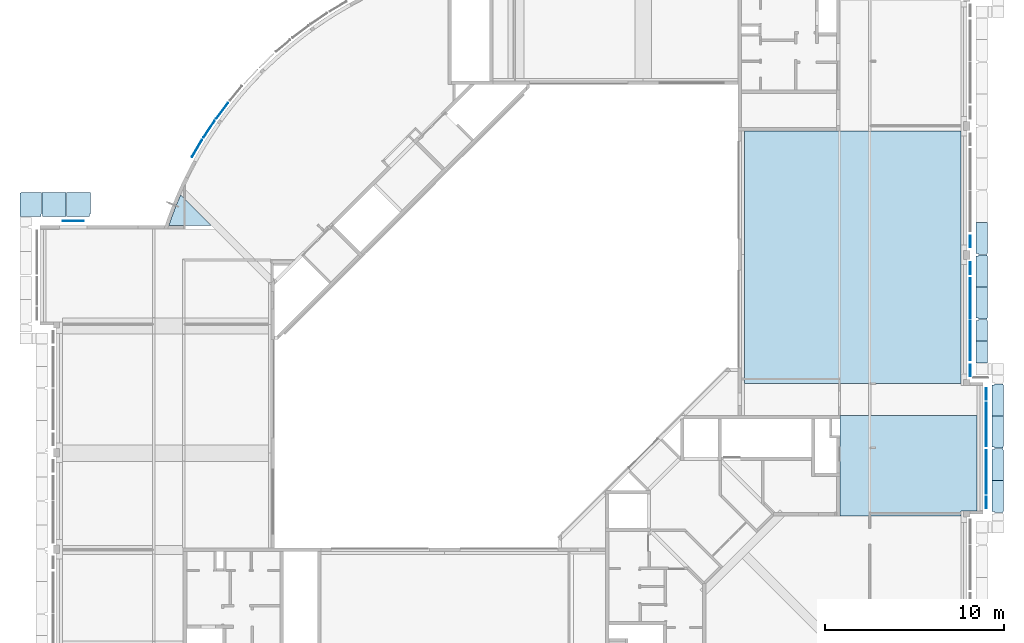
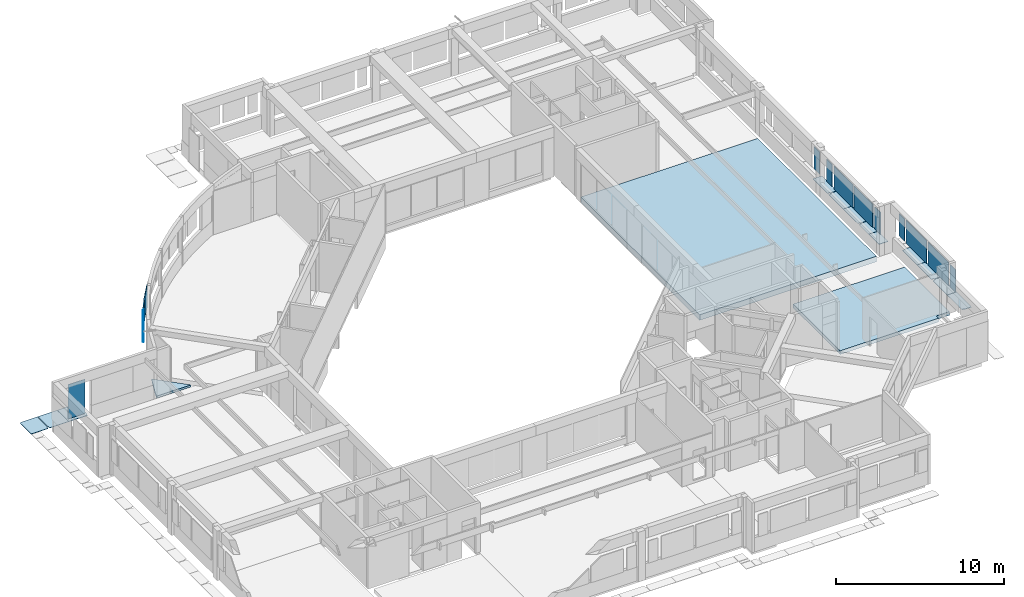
# One storey, part 7 of 26: 15 slabs, 13 plates.
"""IFC4X3_ADD2 building model written with IfcOpenShell, lengths in millimetres."""

from ifc_helpers import new_model, si_unit, point, direction, frame, frame_2d, origin_with_axes, origin_2d_with_axis, place, context, subcontext, project, spatial, polyline, circle_curve, trimmed, segment, composite_curve, rectangle, outline, extrude, source, transform, mapped, material, type_object, element, save


model = new_model("IFC4X3_ADD2")

# Units and contexts
model_context = context("Model", 3, precision=1e-05, world=origin_with_axes(), true_north=direction((0.0, 1.0)))
body_context = subcontext(model_context, "Body", "Model", "MODEL_VIEW")
ifc_project = project(units=[si_unit("LENGTHUNIT", "METRE", prefix="MILLI"), si_unit("AREAUNIT", "SQUARE_METRE"), si_unit("VOLUMEUNIT", "CUBIC_METRE"), si_unit("PLANEANGLEUNIT", "RADIAN"), si_unit("TIMEUNIT", "SECOND"), si_unit("MASSUNIT", "GRAM")], contexts=[model_context])

# Site, building, storey
site_placement = place(None, origin_with_axes())
site = spatial("IfcSite", under=ifc_project, at=site_placement, Name="Site", CompositionType="ELEMENT")
building_placement = place(site_placement, origin_with_axes())
building = spatial("IfcBuilding", under=site, at=building_placement, Name="IFC Building Story")
storey_placement = place(building_placement, frame((0.0, 0.0, 7200.0), z_axis=(0.0, 0.0, 1.0), x_axis=(1.0, 0.0, 0.0)))
storey = spatial("IfcBuildingStorey", under=building, at=storey_placement, Name="020", Elevation=7200.0)

# Slab
ifc_material_1 = material(Name="BB_Beton_Bestaand")
slab_type_1 = type_object("IfcSlabType", Name="BB_Beton_Bestaand 400", PredefinedType="FLOOR", material=ifc_material_1)
slab_1_placement = place(storey_placement, frame((-12355.00406588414, 36000.00000000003, -600.0), z_axis=(0.0, 0.0, 1.0), x_axis=(0.0, -1.0, 0.0)))
element("IfcSlab", 1, at=slab_1_placement, inside=storey, type_object=slab_type_1, Name="Floor:BB_XX_Vloer welfsels, 400 mm", ObjectType="Floor:BB_XX_Vloer welfsels, 400 mm", PredefinedType="FLOOR", context=body_context, shape_type="SweptSolid", body=[
    extrude(rectangle(XDim=14100.00000000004, YDim=12110.0040658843, at=frame_2d((0.0, 0.0), x_axis=(-1.0, 0.0))), frame((7050.000000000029, 6055.002032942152, 0.0), z_axis=(0.0, 0.0, 1.0), x_axis=(1.0, 0.0, 0.0)), (0.0, 0.0, 1.0), 400.0),
])

# Plates
ifc_material_2 = material(Name="BB_Metaal_Aluminium_Buitenschrijnwerk")
shared_shape_1 = source(origin_with_axes(), body_context, "Body", "SweptSolid", [
    extrude(rectangle(XDim=2473.0, YDim=1164.000000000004, at=frame_2d((0.0, 0.0), x_axis=(0.0, 1.0))), frame((0.0, 0.0, -44.0), z_axis=(0.0, 0.0, 1.0), x_axis=(1.0, 0.0, 0.0)), (0.0, 0.0, 1.0), 44.0),
])
plate_1_placement = place(storey_placement, frame((-49845.0, 30997.5000000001, 1323.49999999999), z_axis=(0.0, 1.0, 0.0), x_axis=(-1.0, 0.0, 0.0)))
element("IfcPlate", 2, at=plate_1_placement, inside=storey, material=ifc_material_2, Name="BB_07.06_Buitenbeglazing, rechthoekig_GMO:07.04.63#01_Vulpaneel, 44 mm", ObjectType="BB_07.06_Buitenbeglazing, rechthoekig_GMO:07.04.63#01_Vulpaneel, 44 mm", PredefinedType="USERDEFINED", context=body_context, shape_type="MappedRepresentation", body=[
    mapped(shared_shape_1, transform((0.0, 0.0, 0.0))),
])
ifc_material_3 = material(Name="BB_Glas")
shared_shape_2 = source(origin_with_axes(), body_context, "Body", "SweptSolid", [
    extrude(rectangle(XDim=1602.000000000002, YDim=652.0000000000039, at=frame_2d((0.0, 0.0), x_axis=(0.0, 1.0))), frame((0.0, 0.0, -44.0), z_axis=(0.0, 0.0, 1.0), x_axis=(1.0, 0.0, 0.0)), (0.0, 0.0, 1.0), 44.0),
])
for number, where, z_axis, x_axis in (
    (3, (287.500000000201, 28336.0, 1765.0), (1.0, 0.0, 0.0), (0.0, -1.0, 0.0)),
    (4, (287.500000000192, 22624.0, 1765.0), (1.0, 0.0, 0.0), (0.0, -1.0, 0.0)),
    (5, (1187.50000000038, 21316.0, 1765.0), (1.0, 0.0, 0.0), (0.0, -1.0, 0.0)),
    (6, (1187.50000000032, 15244.0, 1765.0), (1.0, 0.0, 0.0), (0.0, -1.0, 0.0)),
    (7, (287.500000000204, 29824.0, 1765.0), (1.0, 0.0, 0.0), (0.0, -1.0, 0.0)),
):
    element("IfcPlate", number, at=place(storey_placement, frame(where, z_axis=z_axis, x_axis=x_axis)), inside=storey, material=ifc_material_3, Name="BB_07.06_Buitenbeglazing, rechthoekig_GMO:07.06.72#01_Drievoudige beglazing, 44 mm, A/A*/A", ObjectType="BB_07.06_Buitenbeglazing, rechthoekig_GMO:07.06.72#01_Drievoudige beglazing, 44 mm, A/A*/A", PredefinedType="USERDEFINED", context=body_context, shape_type="MappedRepresentation", body=[
        mapped(shared_shape_2, transform((0.0, 0.0, 0.0))),
    ])
shared_shape_3 = source(origin_with_axes(), body_context, "Body", "SweptSolid", [
    extrude(rectangle(XDim=2432.0, YDim=1680.000000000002, at=origin_2d_with_axis()), frame((0.0, 0.0, -44.0), z_axis=(0.0, 0.0, 1.0), x_axis=(1.0, 0.0, 0.0)), (0.0, 0.0, 1.0), 44.0),
])
for number, where, z_axis, x_axis in (
    (8, (1187.50000000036, 19596.0, 1765.0), (1.0, 0.0, 0.0), (0.0, -1.0, 0.0)),
    (9, (1187.50000000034, 16964.0, 1765.0), (1.0, 0.0, 0.0), (0.0, -1.0, 0.0)),
):
    element("IfcPlate", number, at=place(storey_placement, frame(where, z_axis=z_axis, x_axis=x_axis)), inside=storey, material=ifc_material_3, Name="BB_07.06_Buitenbeglazing, rechthoekig_GMO:07.06.72#01_Drievoudige beglazing, 44 mm, A/A*/A", ObjectType="BB_07.06_Buitenbeglazing, rechthoekig_GMO:07.06.72#01_Drievoudige beglazing, 44 mm, A/A*/A", PredefinedType="USERDEFINED", context=body_context, shape_type="MappedRepresentation", body=[
        mapped(shared_shape_3, transform((0.0, 0.0, 0.0))),
    ])
shared_shape_4 = source(origin_with_axes(), body_context, "Body", "SweptSolid", [
    extrude(rectangle(XDim=2222.0, YDim=1680.000000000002, at=origin_2d_with_axis()), frame((0.0, 0.0, -44.0), z_axis=(0.0, 0.0, 1.0), x_axis=(1.0, 0.0, 0.0)), (0.0, 0.0, 1.0), 44.0),
])
for number, where, z_axis, x_axis in (
    (10, (287.500000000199, 26661.0, 1765.0), (1.0, 0.0, 0.0), (0.0, -1.0, 0.0)),
    (11, (287.500000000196, 24299.0, 1765.0), (1.0, 0.0, 0.0), (0.0, -1.0, 0.0)),
):
    element("IfcPlate", number, at=place(storey_placement, frame(where, z_axis=z_axis, x_axis=x_axis)), inside=storey, material=ifc_material_3, Name="BB_07.06_Buitenbeglazing, rechthoekig_GMO:07.06.72#01_Drievoudige beglazing, 44 mm, A/A*/A", ObjectType="BB_07.06_Buitenbeglazing, rechthoekig_GMO:07.06.72#01_Drievoudige beglazing, 44 mm, A/A*/A", PredefinedType="USERDEFINED", context=body_context, shape_type="MappedRepresentation", body=[
        mapped(shared_shape_4, transform((0.0, 0.0, 0.0))),
    ])
shared_shape_5 = source(origin_with_axes(), body_context, "Body", "SweptSolid", [
    extrude(rectangle(XDim=1680.000000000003, YDim=1108.000000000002, at=frame_2d((0.0, 0.0), x_axis=(0.0, 1.0))), frame((0.0, 0.0, -44.0), z_axis=(0.0, 0.0, 1.0), x_axis=(1.0, 0.0, 0.0)), (0.0, 0.0, 1.0), 44.0),
])
for number, where, z_axis, x_axis in (
    (12, (-41553.14279598, 37142.7757453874, 1765.0), (-0.8007150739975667, 0.5990453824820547, 0.0), (0.5990453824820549, 0.8007150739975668, 0.0)),
    (13, (-42275.6815539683, 36119.0900625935, 1765.0), (-0.83263998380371, 0.553814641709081, 0.0), (0.553814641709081, 0.83263998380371, 0.0)),
):
    element("IfcPlate", number, at=place(storey_placement, frame(where, z_axis=z_axis, x_axis=x_axis)), inside=storey, material=ifc_material_3, Name="BB_07.06_Buitenbeglazing, rechthoekig_GMO:07.06.72#01_Drievoudige beglazing, 44 mm, A/A*/A", ObjectType="BB_07.06_Buitenbeglazing, rechthoekig_GMO:07.06.72#01_Drievoudige beglazing, 44 mm, A/A*/A", PredefinedType="USERDEFINED", context=body_context, shape_type="MappedRepresentation", body=[
        mapped(shared_shape_5, transform((0.0, 0.0, 0.0))),
    ])
shared_shape_6 = source(origin_with_axes(), body_context, "Body", "SweptSolid", [
    extrude(rectangle(XDim=1602.000000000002, YDim=1096.000000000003, at=frame_2d((0.0, 0.0), x_axis=(0.0, 1.0))), frame((0.0, 0.0, -44.0), z_axis=(0.0, 0.0, 1.0), x_axis=(1.0, 0.0, 0.0)), (0.0, 0.0, 1.0), 44.0),
])
plate_2_placement = place(storey_placement, frame((-42955.5616505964, 35029.4203907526, 1765.0), z_axis=(-0.8626056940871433, 0.5058768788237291, 0.0), x_axis=(-0.5058768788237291, -0.8626056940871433, 0.0)))
element("IfcPlate", 14, at=plate_2_placement, inside=storey, material=ifc_material_3, Name="BB_07.06_Buitenbeglazing, rechthoekig_GMO:07.06.72#01_Drievoudige beglazing, 44 mm, A/A*/A", ObjectType="BB_07.06_Buitenbeglazing, rechthoekig_GMO:07.06.72#01_Drievoudige beglazing, 44 mm, A/A*/A", PredefinedType="USERDEFINED", context=body_context, shape_type="MappedRepresentation", body=[
    mapped(shared_shape_6, transform((0.0, 0.0, 0.0))),
])

# Slabs
slab_type_2 = type_object("IfcSlabType", Name="BB_Beton_Bestaand 260", PredefinedType="FLOOR", material=ifc_material_1)
slab_2_placement = place(storey_placement, frame((-6999.999999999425, 14499.99999999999, -460.0), z_axis=(0.0, 0.0, 1.0), x_axis=(1.0, 0.0, 0.0)))
element("IfcSlab", 15, at=slab_2_placement, inside=storey, type_object=slab_type_2, Name="Floor:BB_XX_Vloer welfsels, 260 mm", ObjectType="Floor:BB_XX_Vloer welfsels, 260 mm", PredefinedType="FLOOR", context=body_context, shape_type="SweptSolid", body=[
    extrude(outline(polyline([(1951.66666666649, -1683.333333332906), (1951.66666666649, -1958.333333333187), (-4803.333333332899, -1958.333333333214), (-4803.333333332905, 3641.666666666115), (2851.666666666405, 3641.666666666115), (2851.66666666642, -1683.333333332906), (1951.66666666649, -1683.333333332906)])), frame((4803.333333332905, 1958.333333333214, 0.0), z_axis=(0.0, 0.0, 1.0), x_axis=(1.0, 0.0, 0.0)), (0.0, 0.0, 1.0), 260.0),
])
slab_type_3 = type_object("IfcSlabType", Name="BB_Beton_Bestaand 150", PredefinedType="FLOOR", material=ifc_material_1)
slab_3_placement = place(storey_placement, frame((-45026.6328808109, 31248.57601736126, -350.0), z_axis=(0.0, 0.0, 1.0), x_axis=(0.7071067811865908, -0.7071067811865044, 0.0)))
element("IfcSlab", 16, at=slab_3_placement, inside=storey, type_object=slab_type_3, Name="Floor:BB_XX_Vloer uit beton, 150 mm", ObjectType="Floor:BB_XX_Vloer uit beton, 150 mm", PredefinedType="FLOOR", context=body_context, shape_type="SweptSolid", body=[
    extrude(outline(composite_curve([segment(trimmed(circle_curve(origin_2d_with_axis(), 22000.00000010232), [point((-19715.10513821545, -9762.921150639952))], [point((-20455.55344290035, -8097.551071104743))], False, "CARTESIAN"), True, "CONTINUOUS"), segment(polyline([(-20455.55344290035, -8097.551071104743), (-18049.73505868, -8097.551071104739)]), True, "CONTINUOUS"), segment(polyline([(-18049.73505868, -8097.551071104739), (-19715.10513821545, -9762.921150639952)]), True, "CONTINUOUS")], self_intersect=False)), frame((20455.55344290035, 9762.921150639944, 0.0), z_axis=(0.0, 0.0, 1.0), x_axis=(1.0, 0.0, 0.0)), (0.0, 0.0, 1.0), 150.0000000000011),
])
ifc_material_4 = material(Name="Steel, Galvanized - looprooster")
slab_type_4 = type_object("IfcSlabType", Name="Steel, Galvanized - looprooster 30", PredefinedType="FLOOR", material=ifc_material_4)
slab_4_placement = place(storey_placement, frame((-52819.99839785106, 32575.00048070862, -350.0), z_axis=(0.0, 0.0, 1.0), x_axis=(0.0, -1.0, 0.0)))
element("IfcSlab", 17, at=slab_4_placement, inside=storey, type_object=slab_type_4, Name="Floor:GVH - Looprooster 30 mm", ObjectType="Floor:GVH - Looprooster 30 mm", PredefinedType="FLOOR", context=body_context, shape_type="SweptSolid", body=[
    extrude(outline(polyline([(557.1252803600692, 565.9989790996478), (703.6241589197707, 565.9989790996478), (703.6241589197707, -603.9981599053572), (-607.8747196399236, -603.9981599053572), (-607.8747196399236, -558.9997982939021), (-652.8747196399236, -558.9997982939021), (-652.8747196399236, 596.9989790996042), (557.1252803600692, 596.9989790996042), (557.1252803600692, 565.9989790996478)])), frame((652.8747196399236, 603.9981599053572, 0.0), z_axis=(0.0, 0.0, 1.0), x_axis=(1.0, 0.0, 0.0)), (0.0, 0.0, 1.0), 29.99999999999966),
])
slab_5_placement = place(storey_placement, frame((-51581.00125884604, 32575.00048070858, -350.0), z_axis=(0.0, 0.0, 1.0), x_axis=(0.0, -1.0, 0.0)))
element("IfcSlab", 18, at=slab_5_placement, inside=storey, type_object=slab_type_4, Name="Floor:GVH - Looprooster 30 mm", ObjectType="Floor:GVH - Looprooster 30 mm", PredefinedType="FLOOR", context=body_context, shape_type="SweptSolid", body=[
    extrude(outline(polyline([(500.0000002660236, -424.6660387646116), (354.9999994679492, -424.6660387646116), (354.9999994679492, -455.6665919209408), (-854.9999997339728, -455.6665919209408), (-854.9999997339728, 880.3326306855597), (500.0000002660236, 880.3326306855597), (500.0000002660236, -424.6660387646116)])), frame((854.9999997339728, 455.6665919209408, 0.0), z_axis=(0.0, 0.0, 1.0), x_axis=(1.0, 0.0, 0.0)), (0.0, 0.0, 1.0), 29.99999999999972),
])
slab_6_placement = place(storey_placement, frame((-50233.0032588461, 32575.00048070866, -350.0), z_axis=(0.0, 0.0, 1.0), x_axis=(0.0, -1.0, 0.0)))
element("IfcSlab", 19, at=slab_6_placement, inside=storey, type_object=slab_type_4, Name="Floor:GVH - Looprooster 30 mm", ObjectType="Floor:GVH - Looprooster 30 mm", PredefinedType="FLOOR", context=body_context, shape_type="SweptSolid", body=[
    extrude(outline(polyline([(693.9996012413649, 271.6010870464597), (839.0000996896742, 271.6010870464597), (839.0000996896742, -1011.402688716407), (-515.9999003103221, -1011.402688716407), (-515.9999003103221, 166.6005338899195), (-500.9999003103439, 166.6005338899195), (-500.9999003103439, 236.6005338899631), (-515.9999003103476, 236.6005338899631), (-515.9999003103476, 336.6005338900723), (693.9996012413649, 336.6005338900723), (693.9996012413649, 271.6010870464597)])), frame((515.9999003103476, 1011.402688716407, 0.0), z_axis=(0.0, 0.0, 1.0), x_axis=(1.0, 0.0, 0.0)), (0.0, 0.0, 1.0), 29.99999999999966),
])
slab_7_placement = place(storey_placement, frame((589.998741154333, 29064.99996376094, -350.0), z_axis=(0.0, 0.0, 1.0), x_axis=(0.0, -1.0, 0.0)))
element("IfcSlab", 20, at=slab_7_placement, inside=storey, type_object=slab_type_4, Name="Floor:GVH - Looprooster 30 mm", ObjectType="Floor:GVH - Looprooster 30 mm", PredefinedType="FLOOR", context=body_context, shape_type="SweptSolid", body=[
    extrude(outline(polyline([(-420.1244818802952, 282.4992180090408), (1312.373518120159, 282.4992180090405), (1312.373518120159, -347.5004386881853), (-420.1245543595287, -347.5004386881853), (-420.1245543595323, -202.4983406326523), (-472.1244818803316, -202.4983406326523), (-472.1244818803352, 267.4995613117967), (-420.1244818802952, 267.4995613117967), (-420.1244818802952, 282.4992180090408)])), frame((472.1244818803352, 347.5004386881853, 0.0), z_axis=(0.0, 0.0, 1.0), x_axis=(1.0, 0.0, 0.0)), (0.0, 0.0, 1.0), 29.99999999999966),
])
slab_8_placement = place(storey_placement, frame((589.998741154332, 25464.99996376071, -350.0), z_axis=(0.0, 0.0, 1.0), x_axis=(0.0, -1.0, 0.0)))
element("IfcSlab", 21, at=slab_8_placement, inside=storey, type_object=slab_type_4, Name="Floor:GVH - Looprooster 30 mm", ObjectType="Floor:GVH - Looprooster 30 mm", PredefinedType="FLOOR", context=body_context, shape_type="SweptSolid", body=[
    extrude(outline(polyline([(-275.8744909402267, 282.499218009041), (879.623509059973, 282.499218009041), (879.623509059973, -347.5004386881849), (-275.8745271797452, -347.5004386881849), (-275.8745271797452, -202.4983406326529), (-327.8744909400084, -202.4983406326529), (-327.874490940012, 267.499561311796), (-275.8744909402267, 267.499561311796), (-275.8744909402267, 282.499218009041)])), frame((327.874490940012, 347.5004386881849, 0.0), z_axis=(0.0, 0.0, 1.0), x_axis=(1.0, 0.0, 0.0)), (0.0, 0.0, 1.0), 29.99999999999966),
])
slab_9_placement = place(storey_placement, frame((589.998733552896, 30879.49796376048, -350.0), z_axis=(0.0, 0.0, 1.0), x_axis=(0.0, -1.0, 0.0)))
element("IfcSlab", 22, at=slab_9_placement, inside=storey, type_object=slab_type_4, Name="Floor:GVH - Looprooster 30 mm", ObjectType="Floor:GVH - Looprooster 30 mm", PredefinedType="FLOOR", context=body_context, shape_type="SweptSolid", body=[
    extrude(outline(polyline([(472.1224909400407, -202.4983406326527), (420.1225271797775, -202.4983406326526), (420.1225271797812, -347.5004386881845), (-1312.371509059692, -347.5004386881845), (-1312.371509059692, 282.4992180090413), (420.1264909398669, 282.4992180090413), (420.1264909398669, 267.4995613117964), (472.1224909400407, 267.4995613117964), (472.1224909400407, -202.4983406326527)])), frame((1312.371509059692, 347.5004386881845, 0.0), z_axis=(0.0, 0.0, 1.0), x_axis=(1.0, 0.0, 0.0)), (0.0, 0.0, 1.0), 29.99999999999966),
])
slab_10_placement = place(storey_placement, frame((589.998741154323, 27279.49796376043, -350.0), z_axis=(0.0, 0.0, 1.0), x_axis=(0.0, -1.0, 0.0)))
element("IfcSlab", 23, at=slab_10_placement, inside=storey, type_object=slab_type_4, Name="Floor:GVH - Looprooster 30 mm", ObjectType="Floor:GVH - Looprooster 30 mm", PredefinedType="FLOOR", context=body_context, shape_type="SweptSolid", body=[
    extrude(outline(polyline([(471.9994999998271, -202.4983406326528), (420.4995000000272, -202.4983406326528), (420.4995000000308, -347.5004386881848), (-1312.498499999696, -347.5004386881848), (-1312.498499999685, 282.499218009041), (419.9994999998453, 282.4992180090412), (419.9994999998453, 267.4995613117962), (471.9994999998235, 267.4995613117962), (471.9994999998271, -202.4983406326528)])), frame((1312.498499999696, 347.5004386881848, 0.0), z_axis=(0.0, 0.0, 1.0), x_axis=(1.0, 0.0, 0.0)), (0.0, 0.0, 1.0), 29.99999999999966),
])
slab_11_placement = place(storey_placement, frame((589.998397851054, 24255.9978207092, -350.0), z_axis=(0.0, 0.0, 1.0), x_axis=(0.0, -1.0, 0.0)))
element("IfcSlab", 24, at=slab_11_placement, inside=storey, type_object=slab_type_4, Name="Floor:GVH - Looprooster 30 mm", ObjectType="Floor:GVH - Looprooster 30 mm", PredefinedType="FLOOR", context=body_context, shape_type="SweptSolid", body=[
    extrude(rectangle(XDim=1207.998000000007, YDim=629.9996566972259, at=frame_2d((0.0, 0.0), x_axis=(-1.0, 0.0))), frame((603.9990000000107, 314.9998283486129, 0.0), z_axis=(0.0, 0.0, 1.0), x_axis=(1.0, 0.0, 0.0)), (0.0, 0.0, 1.0), 29.99999999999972),
])
slab_12_placement = place(storey_placement, frame((1489.998733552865, 21864.99979803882, -350.0), z_axis=(0.0, 0.0, 1.0), x_axis=(0.0, -1.0, 0.0)))
element("IfcSlab", 25, at=slab_12_placement, inside=storey, type_object=slab_type_4, Name="Floor:GVH - Looprooster 30 mm", ObjectType="Floor:GVH - Looprooster 30 mm", PredefinedType="FLOOR", context=body_context, shape_type="SweptSolid", body=[
    extrude(outline(polyline([(-419.9993899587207, 282.4992180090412), (1312.498408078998, 282.4992180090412), (1312.498408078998, -347.5004386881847), (-420.4996281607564, -347.5004386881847), (-420.4996281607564, -202.4983406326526), (-471.9993899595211, -202.4983406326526), (-471.9993899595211, 267.4995613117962), (-419.9993899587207, 267.4995613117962), (-419.9993899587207, 282.4992180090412)])), frame((471.9993899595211, 347.5004386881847, 0.0), z_axis=(0.0, 0.0, 1.0), x_axis=(1.0, 0.0, 0.0)), (0.0, 0.0, 1.0), 29.99999999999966),
])
slab_13_placement = place(storey_placement, frame((1489.998725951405, 18265.00125885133, -350.0), z_axis=(0.0, 0.0, 1.0), x_axis=(0.0, -1.0, 0.0)))
element("IfcSlab", 26, at=slab_13_placement, inside=storey, type_object=slab_type_4, Name="Floor:GVH - Looprooster 30 mm", ObjectType="Floor:GVH - Looprooster 30 mm", PredefinedType="FLOOR", context=body_context, shape_type="SweptSolid", body=[
    extrude(outline(polyline([(-393.7494248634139, 282.4992180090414), (1303.248885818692, 282.4992180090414), (1303.248885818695, -347.5004386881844), (-428.7490516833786, -347.5004386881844), (-428.7490516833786, -202.4983406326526), (-480.7504092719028, -202.4983406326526), (-480.7504092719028, 267.4995613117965), (-393.7494248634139, 267.4995613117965), (-393.7494248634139, 282.4992180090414)])), frame((480.7504092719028, 347.5004386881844, 0.0), z_axis=(0.0, 0.0, 1.0), x_axis=(1.0, 0.0, 0.0)), (0.0, 0.0, 1.0), 29.99999999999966),
])
slab_14_placement = place(storey_placement, frame((1489.998733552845, 20079.99796376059, -350.0), z_axis=(0.0, 0.0, 1.0), x_axis=(0.0, -1.0, 0.0)))
element("IfcSlab", 27, at=slab_14_placement, inside=storey, type_object=slab_type_4, Name="Floor:GVH - Looprooster 30 mm", ObjectType="Floor:GVH - Looprooster 30 mm", PredefinedType="FLOOR", context=body_context, shape_type="SweptSolid", body=[
    extrude(outline(polyline([(480.999500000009, -202.4983406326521), (428.999499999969, -202.4983406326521), (428.999499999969, -347.5004386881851), (-1303.998499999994, -347.5004386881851), (-1303.998499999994, 282.4992180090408), (393.9994999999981, 282.4992180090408), (393.9994999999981, 267.4995613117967), (480.9995000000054, 267.4995613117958), (480.999500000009, -202.4983406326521)])), frame((1303.998499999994, 347.5004386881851, 0.0), z_axis=(0.0, 0.0, 1.0), x_axis=(1.0, 0.0, 0.0)), (0.0, 0.0, 1.0), 29.99999999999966),
])
slab_15_placement = place(storey_placement, frame((1489.998725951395, 16480.50196376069, -350.0), z_axis=(0.0, 0.0, 1.0), x_axis=(0.0, -1.0, 0.0)))
element("IfcSlab", 28, at=slab_15_placement, inside=storey, type_object=slab_type_4, Name="Floor:GVH - Looprooster 30 mm", ObjectType="Floor:GVH - Looprooster 30 mm", PredefinedType="FLOOR", context=body_context, shape_type="SweptSolid", body=[
    extrude(outline(polyline([(472.3755776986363, -202.4983406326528), (420.3755776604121, -202.4983406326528), (420.3755776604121, -347.5004386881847), (-1313.126422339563, -347.5004386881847), (-1313.126422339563, 282.4992180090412), (420.3752669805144, 282.4992180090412), (420.3752669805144, 267.4995613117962), (472.3755776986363, 267.4995613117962), (472.3755776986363, -202.4983406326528)])), frame((1313.126422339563, 347.5004386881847, 0.0), z_axis=(0.0, 0.0, 1.0), x_axis=(1.0, 0.0, 0.0)), (0.0, 0.0, 1.0), 29.99999999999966),
])

save(model, "model.ifc")
